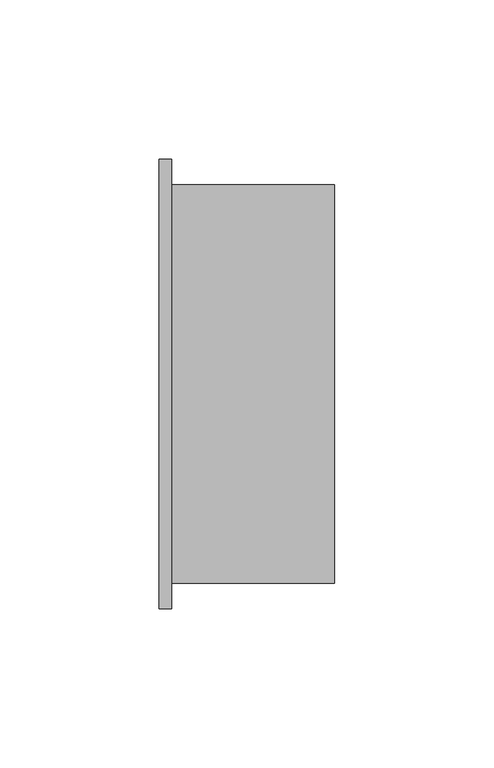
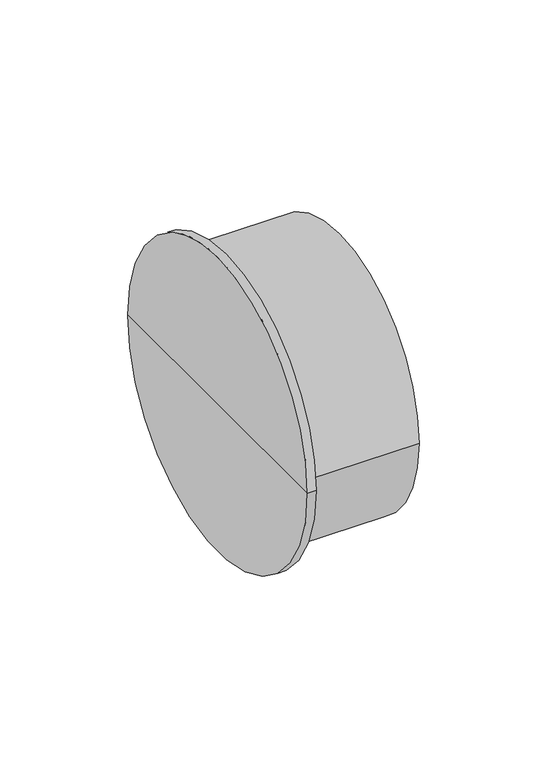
"""IFC4 building model written with IfcOpenShell, lengths in millimetres: pipe fitting geometry, OSMA_KG2000_PPKGM : Hrdlová zátka."""

from ifc_helpers import new_model, si_unit, frame, origin, place, context, project, spatial, circle_curve, source, transform, mapped, element, save
from ifc_brep_helpers import plane_surface, cylinder_surface, advanced_brep


def pipe_fitting_275c2aea(model_context):
    return source(origin(), model_context, "Body", "AdvancedBrep", [
        advanced_brep(
        [(55.0, -62.5, 0.0), (55.0, 62.5, 0.0), (55.0, 0.0, 0.0), (3.9, -62.5, 0.0), (3.9, 62.5, 0.0), (3.9, -70.4, 0.0), (3.9, 70.4, 0.0), (0.0, -70.4, 0.0), (0.0, 70.4, 0.0), (0.0, 0.0, 0.0)],
        [
            (0, 1, circle_curve(frame((55.0, 0.0, 0.0), z_axis=(1.0, 0.0, 0.0), x_axis=(0.0, 1.0, 0.0)), 62.5)),
            (1, 2),
            (2, 0),
            (1, 0, circle_curve(frame((55.0, 0.0, 0.0), z_axis=(1.0, 0.0, 0.0), x_axis=(0.0, 1.0, 0.0)), 62.5)),
            (3, 4, circle_curve(frame((3.9, 0.0, 0.0), z_axis=(1.0, 0.0, 0.0), x_axis=(0.0, 1.0, 0.0)), 62.5)),
            (4, 1),
            (0, 3),
            (4, 3, circle_curve(frame((3.9, 0.0, 0.0), z_axis=(1.0, 0.0, 0.0), x_axis=(0.0, 1.0, 0.0)), 62.5)),
            (5, 6, circle_curve(frame((3.9, 0.0, 0.0), z_axis=(1.0, 0.0, 0.0), x_axis=(0.0, 1.0, 0.0)), 70.4)),
            (6, 4),
            (3, 5),
            (6, 5, circle_curve(frame((3.9, 0.0, 0.0), z_axis=(1.0, 0.0, 0.0), x_axis=(0.0, 1.0, 0.0)), 70.4)),
            (7, 8, circle_curve(frame((0.0, 0.0, 0.0), z_axis=(1.0, 0.0, 0.0), x_axis=(0.0, 1.0, 0.0)), 70.4)),
            (8, 6),
            (5, 7),
            (8, 7, circle_curve(frame((0.0, 0.0, 0.0), z_axis=(1.0, 0.0, 0.0), x_axis=(0.0, 1.0, 0.0)), 70.4)),
            (9, 8),
            (7, 9),
        ],
        [
            plane_surface(frame((55.0, 0.0, 0.0), z_axis=(1.0, 0.0, 0.0), x_axis=(0.0, 1.0, 0.0))),
            cylinder_surface(frame((2000.0, 0.0, 0.0), z_axis=(-1.0, 0.0, 0.0), x_axis=(0.0, 1.0, 0.0)), 62.5),
            plane_surface(frame((3.9, 0.0, 0.0), z_axis=(1.0, 0.0, 0.0), x_axis=(0.0, 1.0, 0.0))),
            cylinder_surface(frame((2000.0, 0.0, 0.0), z_axis=(-1.0, 0.0, 0.0), x_axis=(0.0, 1.0, 0.0)), 70.4),
            plane_surface(frame((0.0, 0.0, 0.0), z_axis=(-1.0, 0.0, 0.0), x_axis=(0.0, 1.0, 0.0))),
        ],
        [
            (0, [[1, 2, 3]]),
            (0, [[4, -3, -2]]),
            (1, [[5, 6, -1, 7]]),
            (1, [[8, -7, -4, -6]]),
            (2, [[9, 10, -5, 11]]),
            (2, [[12, -11, -8, -10]]),
            (3, [[13, 14, -9, 15]]),
            (3, [[16, -15, -12, -14]]),
            (4, [[17, -13, 18]]),
            (4, [[-18, -16, -17]]),
        ],
    ),
    ])


if __name__ == "__main__":
    model = new_model("IFC4")
    model_context = context("Model", 3, world=origin())
    ifc_project = project(units=[si_unit("LENGTHUNIT", "METRE", prefix="MILLI")], contexts=[model_context])
    site = spatial("IfcSite", under=ifc_project)
    building = spatial("IfcBuilding", under=site)
    placement = place(None, origin())
    pipe_fitting_shape = pipe_fitting_275c2aea(model_context)
    element("IfcPipeFitting", 1, ObjectType="OSMA_KG2000_PPKGM : Hrdlová zátka", at=placement, inside=building, context=model_context, shape_type="MappedRepresentation", body=[
        mapped(pipe_fitting_shape, transform((0.0, 0.0, 0.0), x_axis=(1.0, 0.0, 0.0), y_axis=(0.0, 1.0, 0.0), z_axis=(0.0, 0.0, 1.0))),
    ])
    save(model, "model.ifc")
